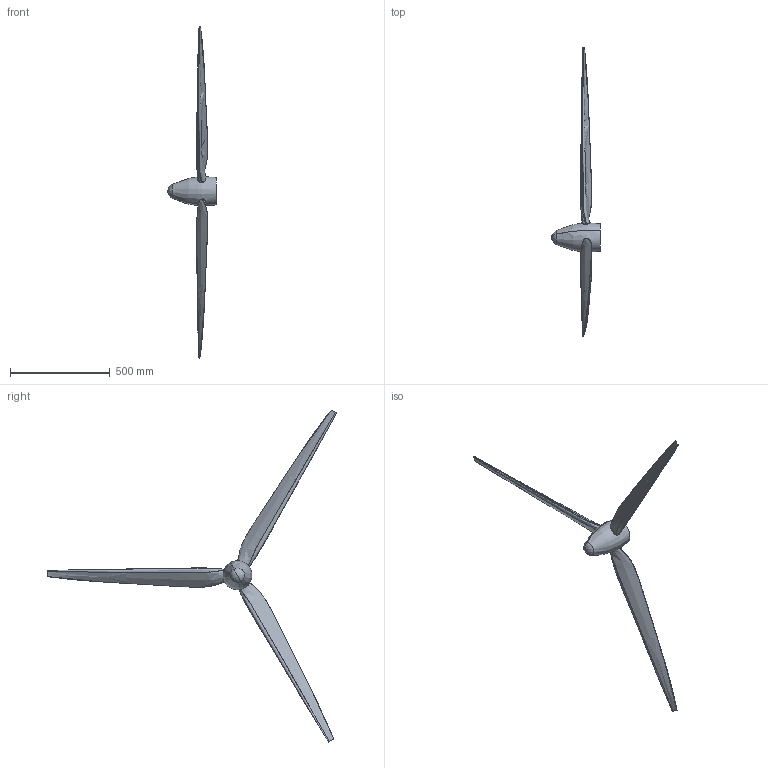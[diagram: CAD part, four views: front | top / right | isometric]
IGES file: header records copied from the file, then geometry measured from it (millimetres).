
Start section: START RECORD GO HERE.
Global section: file name: molino.igs; native system: IBM CATIA IGES - CATIA Version 5 Release 19 ; preprocessor: CATIA Version 5 Release 19 ; author: ignacio; organization: TITAN; date: 20090722.163131; units: millimetre
Bounding box: 243.25 x 1445.52 x 1660.85 mm (x, y, z)
Surface area: 562454.2 mm2 (no closed solid volume)
Topology: 0 solids, 0 shells, 29 faces, 150 edges, 149 vertices
Faces by surface type: bspline 21, plane 4, revolution 4
